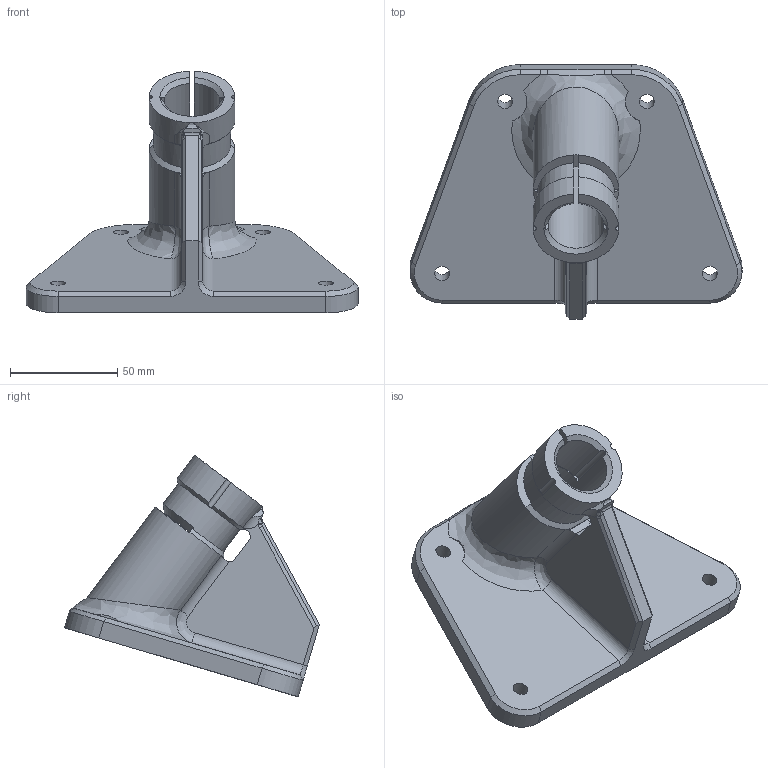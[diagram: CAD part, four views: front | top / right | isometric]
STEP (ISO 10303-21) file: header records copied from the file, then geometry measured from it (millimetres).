
FILE_DESCRIPTION(/* description */ (''),/* implementation_level */ '2;1');
FILE_NAME(/* name */ 'starlink pole adaptor v1 v32.step',/* time_stamp */ '2024-06-01T14:58:20+10:00',/* author */ (''),/* organization */ (''),/* preprocessor_version */ 'ST-DEVELOPER v20',/* originating_system */ 'Autodesk Translation Framework v13.14.0.145',/* authorisation */ '');
FILE_SCHEMA (('AUTOMOTIVE_DESIGN { 1 0 10303 214 3 1 1 }'));
Length unit declared in the file: millimetre
Products named in the file (1): starlink pole adaptor v1
Bounding box: 154.9 x 118.93 x 112.76 mm (x, y, z)
Volume: 225137.9 mm3; surface area: 55039.5 mm2
Topology: 1 solids, 1 shells, 117 faces, 316 edges, 199 vertices
Faces by surface type: plane 52, cylinder 32, bspline 19, cone 14
Full cylindrical faces by diameter (mm): 7 x4, 26 x1
Entity records: 4311 total; most frequent: CARTESIAN_POINT 1429, ORIENTED_EDGE 632, DIRECTION 553, EDGE_CURVE 316, VERTEX_POINT 199, AXIS2_PLACEMENT_3D 198, LINE 157, VECTOR 157
